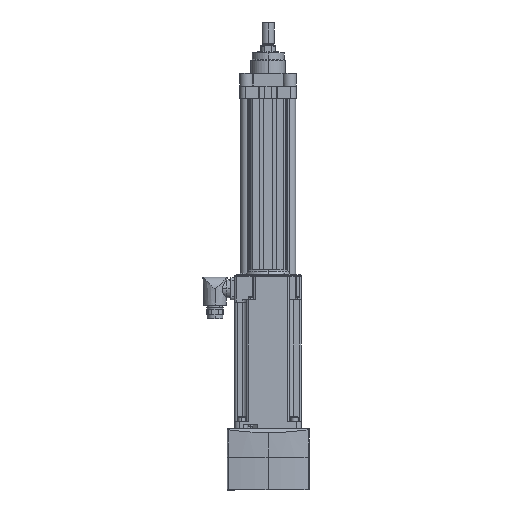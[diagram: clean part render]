
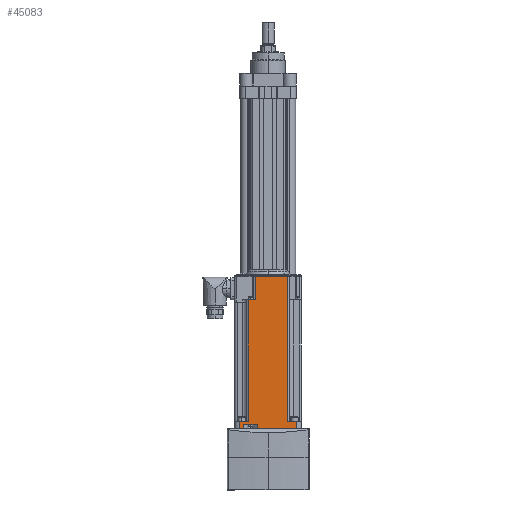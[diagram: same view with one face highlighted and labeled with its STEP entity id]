
A CAD part, left-side view. The second image highlights one B-rep face of the part: STEP entity #45083.
In plain terms, the highlighted planar face has unit normal (-1, 0, 0) as drawn and (0, 0, 1) by its records, which use the part's own axes.
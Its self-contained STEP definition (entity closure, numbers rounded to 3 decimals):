
#413 = VERTEX_POINT ( 'NONE', #9905 ) ;
#1035 = VECTOR ( 'NONE', #37406, 1000. ) ;
#1335 = VERTEX_POINT ( 'NONE', #11685 ) ;
#1833 = CARTESIAN_POINT ( 'NONE',  ( 0., -13.79, 44.704 ) ) ;
#2006 = DIRECTION ( 'NONE',  ( 0., 1., 0. ) ) ;
#2580 = EDGE_CURVE ( 'NONE', #50245, #38765, #35709, .T. ) ;
#2968 = EDGE_CURVE ( 'NONE', #18183, #5128, #33427, .T. ) ;
#3069 = CARTESIAN_POINT ( 'NONE',  ( -170.18, 28.448, 44.704 ) ) ;
#3229 = AXIS2_PLACEMENT_3D ( 'NONE', #3069, #7924, #41573 ) ;
#4048 = LINE ( 'NONE', #13793, #28135 ) ;
#4130 = VERTEX_POINT ( 'NONE', #23579 ) ;
#4520 = CARTESIAN_POINT ( 'NONE',  ( -170.18, 26.416, 44.704 ) ) ;
#5128 = VERTEX_POINT ( 'NONE', #1833 ) ;
#5613 = DIRECTION ( 'NONE',  ( 0., -1., 0. ) ) ;
#7103 = EDGE_CURVE ( 'NONE', #413, #19997, #43525, .T. ) ;
#7484 = ORIENTED_EDGE ( 'NONE', *, *, #59633, .T. ) ;
#7650 = CARTESIAN_POINT ( 'NONE',  ( -6.35, -32.347, 44.704 ) ) ;
#7674 = DIRECTION ( 'NONE',  ( 1., 0., 0. ) ) ;
#7924 = DIRECTION ( 'NONE',  ( 0., 0., -1. ) ) ;
#8838 = DIRECTION ( 'NONE',  ( 0., -1., 0. ) ) ;
#9295 = CARTESIAN_POINT ( 'NONE',  ( -9.906, -26.416, 44.704 ) ) ;
#9369 = VERTEX_POINT ( 'NONE', #9295 ) ;
#9550 = VECTOR ( 'NONE', #54356, 1000. ) ;
#9754 = CARTESIAN_POINT ( 'NONE',  ( -170.18, 38.354, 44.704 ) ) ;
#9905 = CARTESIAN_POINT ( 'NONE',  ( -173.355, -26.416, 44.704 ) ) ;
#11685 = CARTESIAN_POINT ( 'NONE',  ( -204.724, -17.272, 44.704 ) ) ;
#13343 = ORIENTED_EDGE ( 'NONE', *, *, #19596, .T. ) ;
#13793 = CARTESIAN_POINT ( 'NONE',  ( -170.18, -38.354, 44.704 ) ) ;
#13935 = EDGE_CURVE ( 'NONE', #53871, #4130, #4048, .T. ) ;
#14016 = DIRECTION ( 'NONE',  ( 1., 0., 0. ) ) ;
#14071 = VECTOR ( 'NONE', #53348, 1000. ) ;
#15203 = ORIENTED_EDGE ( 'NONE', *, *, #57541, .T. ) ;
#17851 = CARTESIAN_POINT ( 'NONE',  ( -6.35, -13.79, 44.704 ) ) ;
#18183 = VERTEX_POINT ( 'NONE', #50767 ) ;
#18629 = CARTESIAN_POINT ( 'NONE',  ( -204.724, 26.416, 44.704 ) ) ;
#19596 = EDGE_CURVE ( 'NONE', #1335, #19997, #21649, .T. ) ;
#19861 = VERTEX_POINT ( 'NONE', #7650 ) ;
#19997 = VERTEX_POINT ( 'NONE', #32276 ) ;
#21649 = LINE ( 'NONE', #41825, #45741 ) ;
#22374 = LINE ( 'NONE', #4520, #47968 ) ;
#23579 = CARTESIAN_POINT ( 'NONE',  ( 0., -38.354, 44.704 ) ) ;
#24251 = EDGE_CURVE ( 'NONE', #9369, #53871, #58019, .T. ) ;
#24335 = ORIENTED_EDGE ( 'NONE', *, *, #13935, .T. ) ;
#25216 = CARTESIAN_POINT ( 'NONE',  ( -6.35, -13.79, 44.704 ) ) ;
#25345 = VERTEX_POINT ( 'NONE', #18629 ) ;
#26005 = CARTESIAN_POINT ( 'NONE',  ( -173.355, -44.704, 44.704 ) ) ;
#26486 = ORIENTED_EDGE ( 'NONE', *, *, #40435, .T. ) ;
#26866 = LINE ( 'NONE', #29549, #14071 ) ;
#27690 = LINE ( 'NONE', #25216, #51799 ) ;
#27743 = ORIENTED_EDGE ( 'NONE', *, *, #2968, .F. ) ;
#27914 = LINE ( 'NONE', #9754, #52035 ) ;
#28135 = VECTOR ( 'NONE', #14016, 1000. ) ;
#28429 = CARTESIAN_POINT ( 'NONE',  ( -9.906, -44.704, 44.704 ) ) ;
#29549 = CARTESIAN_POINT ( 'NONE',  ( -204.724, -17.272, 44.704 ) ) ;
#31867 = ORIENTED_EDGE ( 'NONE', *, *, #33023, .F. ) ;
#31904 = PLANE ( 'NONE',  #3229 ) ;
#32194 = ORIENTED_EDGE ( 'NONE', *, *, #40577, .T. ) ;
#32276 = CARTESIAN_POINT ( 'NONE',  ( -173.355, -17.272, 44.704 ) ) ;
#32407 = VECTOR ( 'NONE', #33274, 1000. ) ;
#32533 = CARTESIAN_POINT ( 'NONE',  ( 0., -44.704, 44.704 ) ) ;
#33023 = EDGE_CURVE ( 'NONE', #35051, #4130, #40973, .T. ) ;
#33274 = DIRECTION ( 'NONE',  ( 0., -1., 0. ) ) ;
#33427 = LINE ( 'NONE', #55261, #55983 ) ;
#35051 = VERTEX_POINT ( 'NONE', #52260 ) ;
#35709 = LINE ( 'NONE', #42494, #37243 ) ;
#36519 = CARTESIAN_POINT ( 'NONE',  ( -170.18, -26.416, 44.704 ) ) ;
#36780 = LINE ( 'NONE', #39096, #60875 ) ;
#37243 = VECTOR ( 'NONE', #8838, 1000. ) ;
#37406 = DIRECTION ( 'NONE',  ( 0., -1., 0. ) ) ;
#38564 = EDGE_CURVE ( 'NONE', #59799, #19861, #36780, .T. ) ;
#38765 = VERTEX_POINT ( 'NONE', #46176 ) ;
#39096 = CARTESIAN_POINT ( 'NONE',  ( -6.35, -13.79, 44.704 ) ) ;
#39784 = LINE ( 'NONE', #36519, #51060 ) ;
#40435 = EDGE_CURVE ( 'NONE', #25345, #1335, #26866, .T. ) ;
#40577 = EDGE_CURVE ( 'NONE', #35051, #19861, #60748, .T. ) ;
#40973 = LINE ( 'NONE', #32533, #1035 ) ;
#41052 = ORIENTED_EDGE ( 'NONE', *, *, #50708, .T. ) ;
#41573 = DIRECTION ( 'NONE',  ( 0., 1., 0. ) ) ;
#41775 = ORIENTED_EDGE ( 'NONE', *, *, #7103, .F. ) ;
#41825 = CARTESIAN_POINT ( 'NONE',  ( -170.18, -17.272, 44.704 ) ) ;
#42494 = CARTESIAN_POINT ( 'NONE',  ( -9.906, -44.704, 44.704 ) ) ;
#43525 = LINE ( 'NONE', #26005, #54797 ) ;
#44925 = ORIENTED_EDGE ( 'NONE', *, *, #2580, .T. ) ;
#45083 = ADVANCED_FACE ( 'NONE', ( #58762 ), #31904, .F. ) ;
#45741 = VECTOR ( 'NONE', #46674, 1000. ) ;
#46176 = CARTESIAN_POINT ( 'NONE',  ( -9.906, 26.416, 44.704 ) ) ;
#46674 = DIRECTION ( 'NONE',  ( 1., 0., 0. ) ) ;
#47656 = ORIENTED_EDGE ( 'NONE', *, *, #61235, .T. ) ;
#47968 = VECTOR ( 'NONE', #62201, 1000. ) ;
#49209 = DIRECTION ( 'NONE',  ( 1., 0., 0. ) ) ;
#49544 = CARTESIAN_POINT ( 'NONE',  ( -170.18, -32.347, 44.704 ) ) ;
#50245 = VERTEX_POINT ( 'NONE', #51557 ) ;
#50708 = EDGE_CURVE ( 'NONE', #38765, #25345, #22374, .T. ) ;
#50767 = CARTESIAN_POINT ( 'NONE',  ( 0., 38.354, 44.704 ) ) ;
#51060 = VECTOR ( 'NONE', #7674, 1000. ) ;
#51557 = CARTESIAN_POINT ( 'NONE',  ( -9.906, 38.354, 44.704 ) ) ;
#51799 = VECTOR ( 'NONE', #49209, 1000. ) ;
#52035 = VECTOR ( 'NONE', #53085, 1000. ) ;
#52260 = CARTESIAN_POINT ( 'NONE',  ( 0., -32.347, 44.704 ) ) ;
#53085 = DIRECTION ( 'NONE',  ( -1., 0., 0. ) ) ;
#53348 = DIRECTION ( 'NONE',  ( 0., -1., 0. ) ) ;
#53871 = VERTEX_POINT ( 'NONE', #60401 ) ;
#54356 = DIRECTION ( 'NONE',  ( -1., 0., 0. ) ) ;
#54797 = VECTOR ( 'NONE', #2006, 1000. ) ;
#54848 = EDGE_LOOP ( 'NONE', ( #55966, #24335, #31867, #32194, #56777, #7484, #27743, #15203, #44925, #41052, #26486, #13343, #41775, #47656 ) ) ;
#55261 = CARTESIAN_POINT ( 'NONE',  ( 0., -44.704, 44.704 ) ) ;
#55966 = ORIENTED_EDGE ( 'NONE', *, *, #24251, .T. ) ;
#55983 = VECTOR ( 'NONE', #60103, 1000. ) ;
#56777 = ORIENTED_EDGE ( 'NONE', *, *, #38564, .F. ) ;
#57541 = EDGE_CURVE ( 'NONE', #18183, #50245, #27914, .T. ) ;
#58019 = LINE ( 'NONE', #28429, #32407 ) ;
#58762 = FACE_OUTER_BOUND ( 'NONE', #54848, .T. ) ;
#59633 = EDGE_CURVE ( 'NONE', #59799, #5128, #27690, .T. ) ;
#59799 = VERTEX_POINT ( 'NONE', #17851 ) ;
#60103 = DIRECTION ( 'NONE',  ( 0., -1., 0. ) ) ;
#60401 = CARTESIAN_POINT ( 'NONE',  ( -9.906, -38.354, 44.704 ) ) ;
#60748 = LINE ( 'NONE', #49544, #9550 ) ;
#60875 = VECTOR ( 'NONE', #5613, 1000. ) ;
#61235 = EDGE_CURVE ( 'NONE', #413, #9369, #39784, .T. ) ;
#62201 = DIRECTION ( 'NONE',  ( -1., 0., 0. ) ) ;
